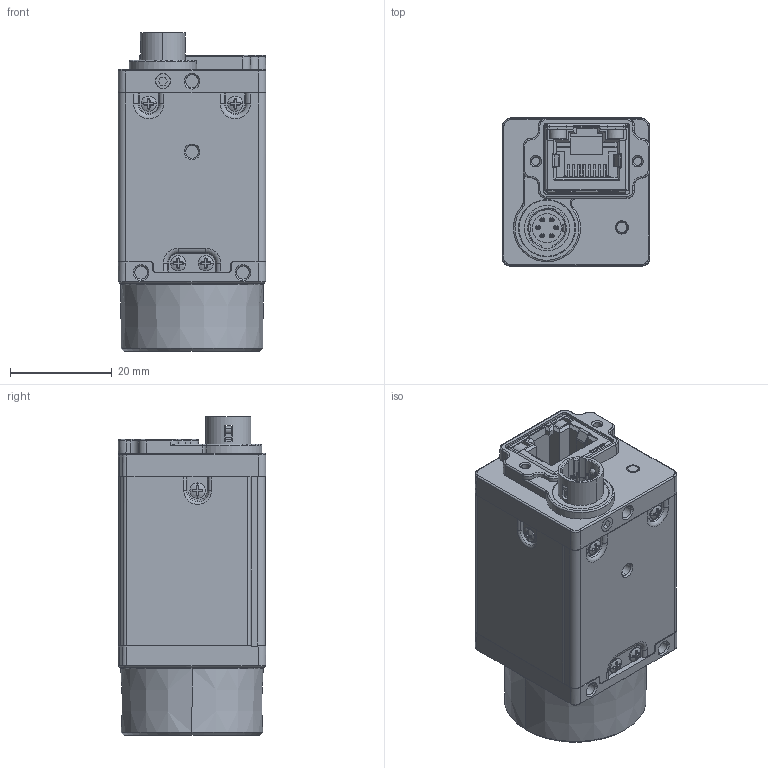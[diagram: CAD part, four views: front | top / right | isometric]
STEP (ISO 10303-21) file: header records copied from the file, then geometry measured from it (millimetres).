
FILE_DESCRIPTION((''),'2;1');
FILE_NAME('MV-CU016-10GMGC','2023-10-08T19:14:29',('zhangfeixiang8'),(''),'CREO PARAMETRIC BY PTC INC, 2020044','CREO PARAMETRIC BY PTC INC, 2020044','');
FILE_SCHEMA(('CONFIG_CONTROL_DESIGN'));
Products named in the file (1): MV-CU016-10GMGC
Bounding box: 29 x 29 x 62.53 mm (x, y, z)
Volume: 35221.6 mm3; surface area: 22190.1 mm2
Topology: 2 solids, 16 shells, 2491 faces, 6829 edges, 4361 vertices
Faces by surface type: plane 1212, cylinder 542, bspline 273, cone 240, torus 181, sphere 23, extrusion 20
Entity records: 96769 total; most frequent: CARTESIAN_POINT 35378, ORIENTED_EDGE 13618, DIRECTION 11859, EDGE_CURVE 6809, VERTEX_POINT 4361, AXIS2_PLACEMENT_3D 4044, VECTOR 3771, LINE 3751
